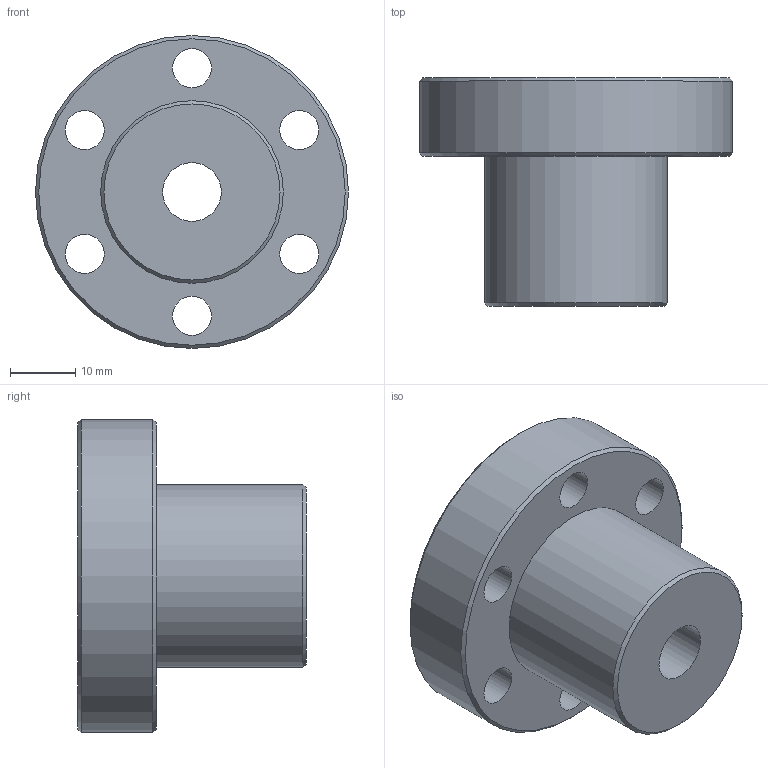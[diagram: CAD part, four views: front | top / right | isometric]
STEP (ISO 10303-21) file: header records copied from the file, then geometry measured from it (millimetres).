
FILE_DESCRIPTION(('FreeCAD Model'),'2;1');
FILE_NAME('Open CASCADE Shape Model','2021-05-04T13:25:10',('Author'),( ''),'Open CASCADE STEP processor 7.5','FreeCAD','Unknown');
FILE_SCHEMA(('AUTOMOTIVE_DESIGN { 1 0 10303 214 1 1 1 1 }'));
Length unit declared in the file: millimetre
Products named in the file (1): 1
Bounding box: 48 x 35 x 48 mm (x, y, z)
Volume: 31566.3 mm3; surface area: 9217 mm2
Topology: 1 solids, 1 shells, 15 faces, 36 edges, 24 vertices
Faces by surface type: cylinder 9, plane 3, cone 3
Full cylindrical faces by diameter (mm): 6 x6, 9 x1, 28 x1, 48 x1
Entity records: 1067 total; most frequent: CARTESIAN_POINT 160, DIRECTION 152, ORIENTED_EDGE 72, PCURVE 72, DEFINITIONAL_REPRESENTATION 72, LINE 53, VECTOR 53, CIRCLE 43
